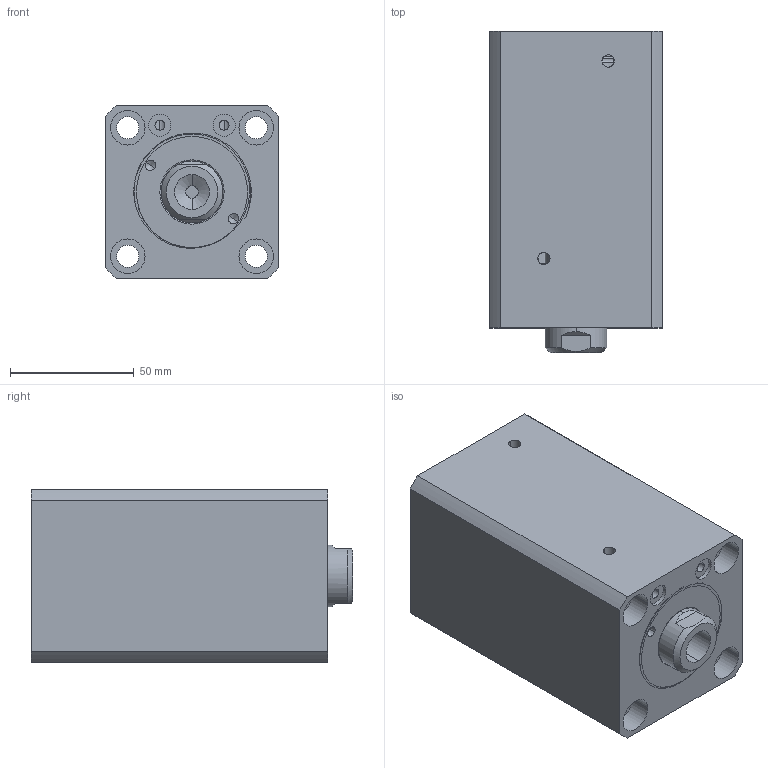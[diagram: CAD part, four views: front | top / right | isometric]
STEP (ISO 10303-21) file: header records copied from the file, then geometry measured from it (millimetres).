
FILE_DESCRIPTION (( 'STEP AP214' ), '1' );
FILE_NAME ('chtb-sdma40x65n_asm.STEP', '2018-06-06T06:23:21', ( 'Windows' ), ( 'Microsoft' ), 'SwSTEP 2.0', 'SolidWorks 2015', '' );
FILE_SCHEMA (( 'AUTOMOTIVE_DESIGN' ));
Length unit declared in the file: millimetre
Products named in the file (4): chtb-sdma40x65n_asm; CHTB-SD40QG; CHTB-SDMA40X65NBT; CHTB-SD40X65NHSG
Assembly tree (3 placements, depth 2):
  chtb-sdma40x65n_asm
    CHTB-SD40X65NHSG
    CHTB-SDMA40X65NBT
    CHTB-SD40QG
Bounding box: 70 x 130 x 70 mm (x, y, z)
Volume: 489028.4 mm3; surface area: 98978.7 mm2
Topology: 3 solids, 3 shells, 157 faces, 413 edges, 274 vertices
Faces by surface type: cylinder 84, plane 36, torus 14, bspline 14, cone 9
Entity records: 10139 total; most frequent: CARTESIAN_POINT 6157, ORIENTED_EDGE 814, DIRECTION 768, EDGE_CURVE 407, AXIS2_PLACEMENT_3D 326, VERTEX_POINT 274, EDGE_LOOP 193, CIRCLE 177
